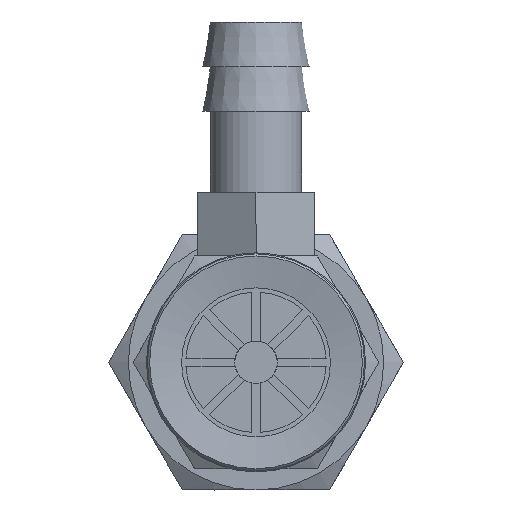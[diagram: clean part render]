
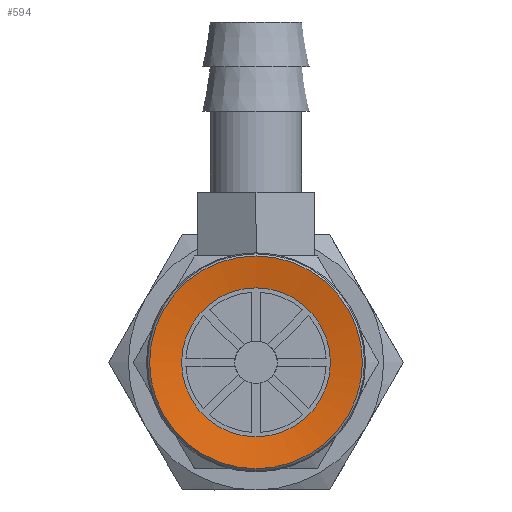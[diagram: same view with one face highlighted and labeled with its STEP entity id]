
A CAD part, front view. The second image highlights one B-rep face of the part: STEP entity #594.
In plain terms, the highlighted conical face has half-angle 80 degrees and reference radius 5 mm.
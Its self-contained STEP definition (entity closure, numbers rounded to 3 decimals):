
#594=ADVANCED_FACE('',(#950,#951),#952,.F.);
#950=FACE_BOUND('',#1337,.T.);
#951=FACE_OUTER_BOUND('',#1338,.T.);
#952=CONICAL_SURFACE('',#1339,5.0,1.396);
#1337=EDGE_LOOP('',(#2351));
#1338=EDGE_LOOP('',(#2352));
#1339=AXIS2_PLACEMENT_3D('',#2353,#2354,#2355);
#2351=ORIENTED_EDGE('',*,*,#2649,.T.);
#2352=ORIENTED_EDGE('',*,*,#2732,.F.);
#2353=CARTESIAN_POINT('',(0.0,0.,0.));
#2354=DIRECTION('',(0.0,0.,-1.0));
#2355=DIRECTION('',(0.0,1.0,0.));
#2649=EDGE_CURVE('',#3081,#3081,#3082,.T.);
#2732=EDGE_CURVE('',#3224,#3224,#3225,.T.);
#3081=VERTEX_POINT('',#4003);
#3082=CIRCLE('',#4004,3.5);
#3224=VERTEX_POINT('',#4187);
#3225=CIRCLE('',#4188,5.0);
#4003=CARTESIAN_POINT('',(0.0,-3.5,0.264));
#4004=AXIS2_PLACEMENT_3D('',#4546,#4547,#4548);
#4187=CARTESIAN_POINT('',(0.0,-5.0,0.));
#4188=AXIS2_PLACEMENT_3D('',#4713,#4714,#4715);
#4546=CARTESIAN_POINT('',(0.0,0.,0.264));
#4547=DIRECTION('',(0.0,0.,1.0));
#4548=DIRECTION('',(0.0,-1.0,0.));
#4713=CARTESIAN_POINT('',(0.0,0.,0.));
#4714=DIRECTION('',(0.0,0.,1.0));
#4715=DIRECTION('',(0.0,-1.0,0.));
